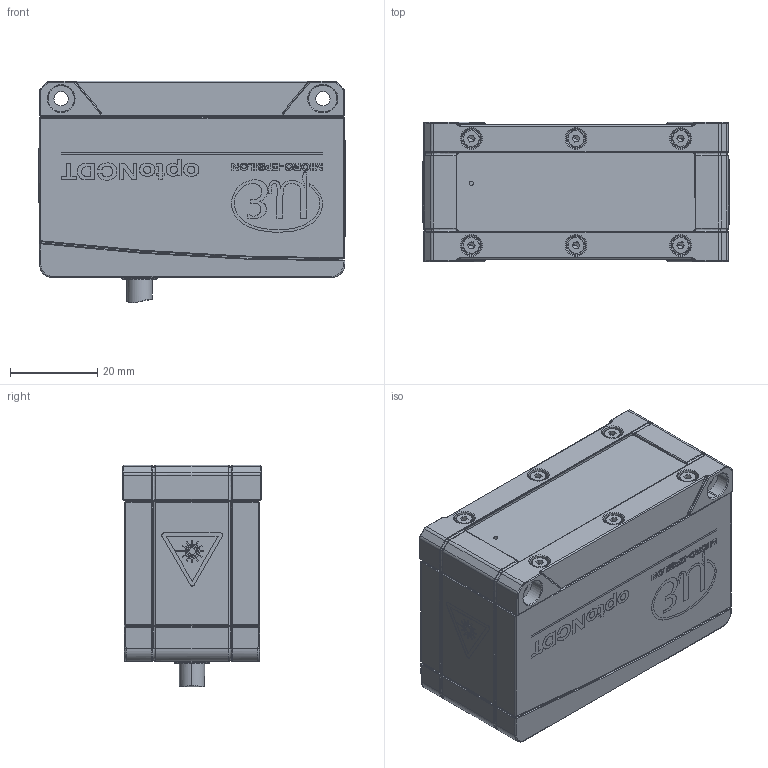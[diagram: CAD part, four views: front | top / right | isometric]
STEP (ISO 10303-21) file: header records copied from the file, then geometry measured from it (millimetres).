
FILE_DESCRIPTION (( 'STEP AP214' ), '1' );
FILE_NAME ('optoNCDT_1900.STEP', '2020-04-24T05:03:06', ( '' ), ( '' ), 'SwSTEP 2.0', 'SolidWorks 2018', '' );
FILE_SCHEMA (( 'AUTOMOTIVE_DESIGN' ));
Length unit declared in the file: millimetre
Products named in the file (2): optoNCDT_1900
Bounding box: 70.19 x 32 x 50.79 mm (x, y, z)
Volume: 95762.5 mm3; surface area: 15394.6 mm2
Topology: 1 solids, 1 shells, 2176 faces, 5694 edges, 3640 vertices
Faces by surface type: plane 954, bspline 813, cylinder 227, torus 87, cone 87, sphere 8
Entity records: 81312 total; most frequent: CARTESIAN_POINT 33475, ORIENTED_EDGE 11332, DIRECTION 7388, EDGE_CURVE 5666, VERTEX_POINT 3640, LINE 3262, VECTOR 3262, EDGE_LOOP 2328
